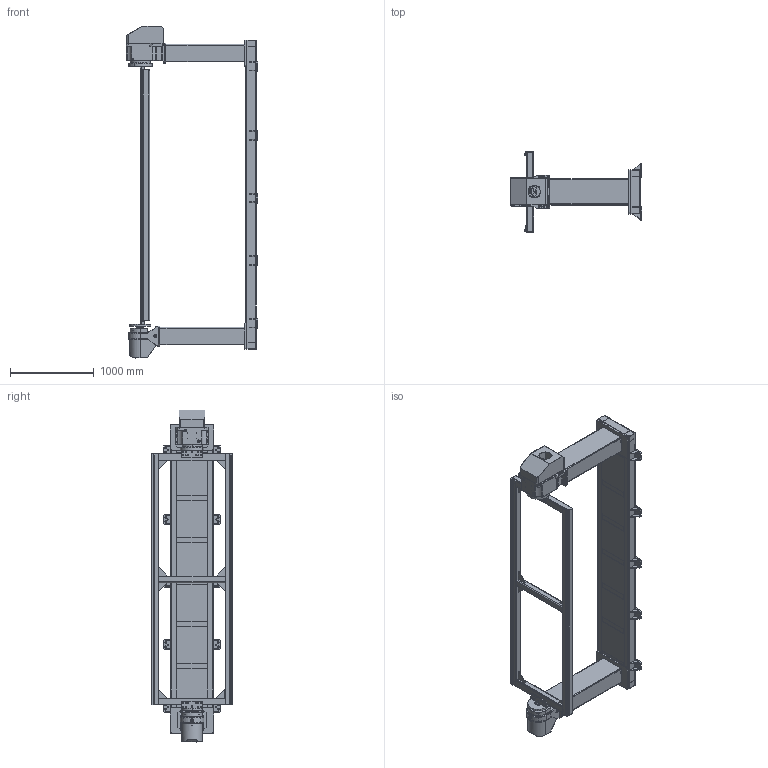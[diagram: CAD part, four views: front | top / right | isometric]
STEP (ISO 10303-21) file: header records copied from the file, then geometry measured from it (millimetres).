
FILE_DESCRIPTION(('CATIA V5 STEP Exchange','CAx-IF Rec.Pracs.--- Model Styling and Organization---1.5--- 2016-08-15','CAx-IF Rec.Pracs.---Supplemental Geometry---1.0---2011-11-01','CAx-IF Rec.Pracs.--- Composite Materials ---1.1---2010-07-15'),'2;1');
FILE_NAME('H:\2025-2-14-翻转变位机（高明远）\3维数据\2025-2-15-STP\SY2025214-BWJ-00.stp','2025-02-15T01:25:58+00:00',('none'),('none'),'CATIA Version 5-6 Release 2020','CATIA V5 STEP AP214 v1','none');
FILE_SCHEMA(('AUTOMOTIVE_DESIGN { 1 0 10303 214 1 1 1 1 }'));
Products named in the file (43): SY2025214-BWJ-00; SY2025214-BWJ-00-01; SY2025214-BWJ-00-01-01; SY2025214-BWJ-00-01-02; SY2025214-BWJ-00-01-03; SY2025214-BWJ-00-01-04; SY2025214-BWJ-00-01-05; Copy (1) of SY2025214-BWJ-00-01-05; SY2025214-BWJ-00-02; SY2025214-BWJ-00-01-06; Copy (2) of SY-BJD-01; Copy (1) of SY202519-SP-01-02; BX160E; Copy (1) of Copy (1) of SY-BJD-01-01.7; Copy (1) of SY202519-SP-02-05; SY2025214-BWJ-00-03; Copy (1) of SY2025214-BWJ-00-01-06; Copy (1) of SY202519-SP-03-01; Copy (1) of Copy (1) of SY-BJX-02; Copy (1) of SY202519-SP-03-02; Copy (1) of Copy (1) of 3ucfc216; Copy (1) of SY20230420-DZ-15.; Copy (1) of SY-BJX-02-01; 2025-2-14-02; 2025-2-14-04; Copy (1) of Copy (1) of Part2; Copy (2) of Copy (1) of Part2; SY2025214-BWJ-01; SY2025214-BWJ-02; Copy (1) of 1XXXPXdzyzx-B-000008; Copy (1) of 1XXXPXdzyzx-C-000006; SY2025214-BWJ-03; Copy (1) of Copy (1) of 1XXXPXdzyzx-B-000008; Copy (1) of 1XXXPXdzyzx-B-000009; SY2025214-BWJ-04; SY2025214-BWJ-00-03-01; SY2025214-BWJ-00-03-02; SY2025214-BWJ-00-03-03; Copy (1) of SY2025214-BWJ-00-03-03; SY2025214-BWJ-00-03-04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
Assembly tree (65 placements, depth 5):
  SY2025214-BWJ-00
    SY2025214-BWJ-00-01
      SY2025214-BWJ-00-01-01  x2
      SY2025214-BWJ-00-01-02  x2
      SY2025214-BWJ-00-01-03
      SY2025214-BWJ-00-01-04  x7
      SY2025214-BWJ-00-01-05
      Copy (1) of SY2025214-BWJ-00-01-05
      SY2025214-BWJ-00-02
        SY2025214-BWJ-00-01-06
        Copy (2) of SY-BJD-01
        Copy (1) of SY202519-SP-01-02
        BX160E
        Copy (1) of Copy (1) of SY-BJD-01-01.7
        Copy (1) of SY202519-SP-02-05
      SY2025214-BWJ-00-03
        Copy (1) of SY2025214-BWJ-00-01-06
        Copy (1) of SY202519-SP-03-01
        Copy (1) of Copy (1) of SY-BJX-02
        Copy (1) of SY202519-SP-03-02
        Copy (1) of Copy (1) of 3ucfc216  x2
        Copy (1) of SY20230420-DZ-15.
        Copy (1) of SY-BJX-02-01
      2025-2-14-02
        2025-2-14-04  x5
          Copy (1) of Copy (1) of Part2
          Copy (2) of Copy (1) of Part2
    SY2025214-BWJ-01
      SY2025214-BWJ-02
        Copy (1) of 1XXXPXdzyzx-B-000008
        Copy (1) of 1XXXPXdzyzx-C-000006
      SY2025214-BWJ-03
        Copy (1) of Copy (1) of 1XXXPXdzyzx-B-000008
        Copy (1) of 1XXXPXdzyzx-B-000009
      SY2025214-BWJ-04
        SY2025214-BWJ-00-03-01  x2
        SY2025214-BWJ-00-03-02  x2
        SY2025214-BWJ-00-03-03
        Copy (1) of SY2025214-BWJ-00-03-03
        SY2025214-BWJ-00-03-04
        SY2025214-BWJ-00-05-01
        SY2025214-BWJ-04-01  x8
        Copy (1) of 1HGR20-1-2  x2
Bounding box: 1565.5 x 960 x 3966 mm (x, y, z)
Volume: 104144129.9 mm3; surface area: 27500661.4 mm2
Topology: 82 solids, 92 shells, 2544 faces, 6689 edges, 4342 vertices
Faces by surface type: cylinder 1176, plane 1099, cone 197, torus 52, bspline 17, sphere 3
Entity records: 67984 total; most frequent: CARTESIAN_POINT 22091, ORIENTED_EDGE 9734, DIRECTION 7030, EDGE_CURVE 4913, VERTEX_POINT 3228, AXIS2_PLACEMENT_3D 3074, VECTOR 2540, LINE 2540
